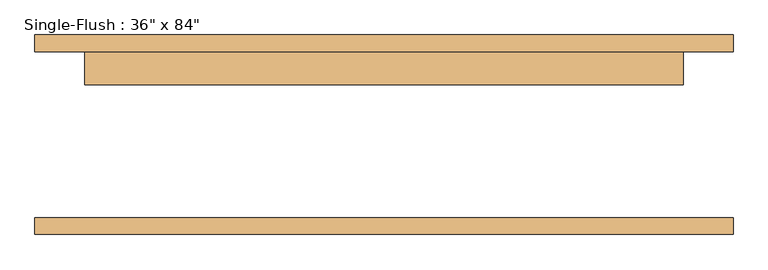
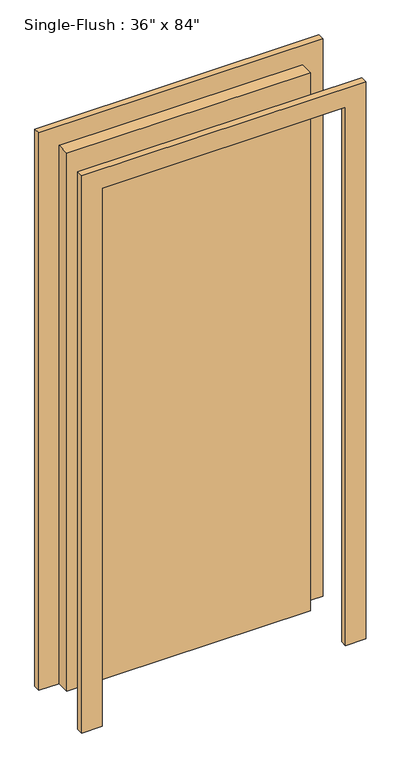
"""IFC4 building model written with IfcOpenShell, lengths in millimetres: door geometry."""

from ifc_helpers import new_model, si_unit, frame, origin, origin_with_axes, place, context, project, spatial, polyline, outline, extrude, source, transform, mapped, element, save


def door_ec010f1f(model_context):
    return source(origin(), model_context, "Body", "SweptSolid", [
        extrude(outline(polyline([(2209.8, -533.4), (0.0, -533.4), (0.0, -457.2), (2133.6, -457.2), (2133.6, 457.2), (0.0, 457.2), (0.0, 533.4), (2209.8, 533.4), (2209.8, -533.4)])), frame((0.0, 127.0, 0.0), z_axis=(0.0, 1.0, 0.0), x_axis=(0.0, 0.0, 1.0)), (0.0, 0.0, 1.0), 25.4),
        extrude(outline(polyline([(2209.8, 533.4), (2209.8, -533.4), (0.0, -533.4), (0.0, -457.2), (2133.6, -457.2), (2133.6, 457.2), (0.0, 457.2), (0.0, 533.4), (2209.8, 533.4)])), frame((0.0, -152.4, 0.0), z_axis=(0.0, 1.0, 0.0), x_axis=(0.0, 0.0, 1.0)), (0.0, 0.0, 1.0), 25.4),
        extrude(outline(polyline([(457.2, 76.2), (-457.2, 76.2), (-457.2, 127.0), (457.2, 127.0), (457.2, 76.2)])), origin_with_axes(), (0.0, 0.0, 1.0), 2133.6),
    ])


if __name__ == "__main__":
    model = new_model("IFC4")
    model_context = context("Model", 3, world=origin())
    ifc_project = project(units=[si_unit("LENGTHUNIT", "METRE", prefix="MILLI")], contexts=[model_context])
    site = spatial("IfcSite", under=ifc_project)
    building = spatial("IfcBuilding", under=site)
    placement = place(None, origin())
    door_shape = door_ec010f1f(model_context)
    element("IfcDoor", 1, ObjectType="Single-Flush : 36\" x 84\"", at=placement, inside=building, context=model_context, shape_type="MappedRepresentation", body=[
        mapped(door_shape, transform((0.0, 0.0, 0.0), x_axis=(1.0, 0.0, 0.0), y_axis=(0.0, 1.0, 0.0), z_axis=(0.0, 0.0, 1.0))),
    ])
    save(model, "model.ifc")
